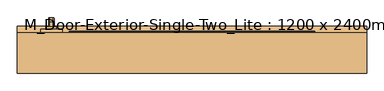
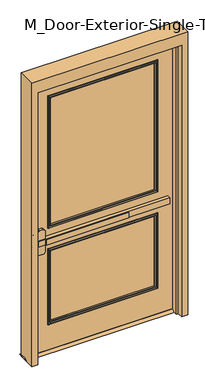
"""IFC4 building model written with IfcOpenShell, lengths in millimetres: door geometry, M_Door-Exterior-Single-Two_Lite : 1200 x 2400mm."""

from ifc_helpers import new_model, si_unit, point, frame, frame_2d, origin, place, context, project, spatial, polyline, circle_curve, ellipse_curve, trimmed, segment, composite_curve, outline, extrude, faceted_brep, source, transform, mapped, element, save
from ifc_brep_helpers import plane_surface, cylinder_surface, revolved_surface, advanced_brep


def m_door_exterior_single_two_lite_1200_x_2400mm_30e12bfc(model_context):
    return source(origin(), model_context, "Body", "SolidModel", [
        extrude(outline(polyline([(111.35, 15.0), (156.35, 15.0), (181.75, 0.0), (85.95, 0.0), (111.35, 15.0)])), frame((-650.0, 0.0, 0.0), z_axis=(1.0, 0.0, 0.0), x_axis=(0.0, 1.0, 0.0)), (0.0, 0.0, 1.0), 1300.0),
        extrude(outline(polyline([(198.95, 73.25), (-492.05, 73.25), (-492.05, 79.6), (198.95, 79.6), (198.95, 73.25)])), frame((0.0, 0.0, 974.6), z_axis=(0.0, 0.0, 1.0), x_axis=(1.0, 0.0, 0.0)), (0.0, 0.0, 1.0), 50.8),
        advanced_brep(
        [(-555.55, 79.6, 1025.4), (-555.55, 79.6, 974.6), (-492.05, 79.6, 974.6), (544.45, 79.6, 974.6), (544.45, 79.6, 1025.4), (-492.05, 79.6, 1025.4), (544.45, 111.35, 1025.4), (544.45, 111.35, 974.6), (-492.05, 111.35, 974.6), (-492.05, 111.35, 911.1), (-511.1, 111.35, 892.05), (-536.5, 111.35, 892.05), (-555.55, 111.35, 911.1), (-555.55, 111.35, 1088.9), (-536.5, 111.35, 1107.95), (-511.1, 111.35, 1107.95), (-492.05, 111.35, 1088.9), (-492.05, 111.35, 1025.4), (-492.05, 82.7752467, 1025.4), (-555.55, 82.7752467, 1025.4), (-555.55, 87.7854269, 1088.9), (-555.55, 87.7854269, 911.1), (-555.55, 82.7752467, 974.6), (-492.05, 82.7752467, 974.6), (-492.05, 87.7854269, 911.1), (-492.05, 87.7854269, 1088.9), (-536.5, 89.288481, 1107.95), (-511.1, 89.288481, 1107.95), (-511.1, 89.288481, 892.05), (-536.5, 89.288481, 892.05)],
        [
            (0, 1),
            (1, 2),
            (2, 3),
            (3, 4),
            (4, 5),
            (5, 0),
            (6, 7),
            (7, 8),
            (8, 9),
            (9, 10, circle_curve(frame((-511.1, 111.35, 911.1), z_axis=(0.0, 1.0, 0.0), x_axis=(1.0, 0.0, 0.0)), 19.05)),
            (10, 11),
            (11, 12, circle_curve(frame((-536.5, 111.35, 911.1), z_axis=(0.0, 1.0, 0.0), x_axis=(1.0, 0.0, 0.0)), 19.05)),
            (12, 13),
            (13, 14, circle_curve(frame((-536.5, 111.35, 1088.9), z_axis=(0.0, 1.0, 0.0), x_axis=(1.0, 0.0, 0.0)), 19.05)),
            (14, 15),
            (15, 16, circle_curve(frame((-511.1, 111.35, 1088.9), z_axis=(0.0, 1.0, 0.0), x_axis=(1.0, 0.0, 0.0)), 19.05)),
            (16, 17),
            (17, 6),
            (4, 6),
            (17, 18),
            (18, 19),
            (19, 0),
            (19, 20),
            (20, 13),
            (12, 21),
            (21, 22),
            (22, 1),
            (7, 3),
            (22, 23),
            (23, 8),
            (23, 24),
            (24, 9),
            (16, 25),
            (25, 18),
            (14, 26),
            (26, 27),
            (27, 15),
            (10, 28),
            (28, 29),
            (29, 11),
            (24, 28, ellipse_curve(frame((-511.1, 87.7854269, 911.1), z_axis=(0.0, 0.9969018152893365, 0.07865602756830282), x_axis=(0.0, -0.07865602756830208, 0.9969018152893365)), 19.1092038, 19.05)),
            (27, 25, ellipse_curve(frame((-511.1, 87.7854269, 1088.9), z_axis=(0.0, 0.9969018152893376, -0.07865602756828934), x_axis=(0.0, -0.078656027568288, -0.9969018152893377)), 19.1092038, 19.05)),
            (20, 26, ellipse_curve(frame((-536.5, 87.7854269, 1088.9), z_axis=(0.0, 0.9969018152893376, -0.07865602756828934), x_axis=(0.0, -0.078656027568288, -0.9969018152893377)), 19.1092038, 19.05)),
            (29, 21, ellipse_curve(frame((-536.5, 87.7854269, 911.1), z_axis=(0.0, 0.9969018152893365, 0.07865602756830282), x_axis=(0.0, -0.07865602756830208, 0.9969018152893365)), 19.1092038, 19.05)),
        ],
        [
            plane_surface(frame((-555.55, 79.6, 1025.4), z_axis=(0.0, -1.0, 0.0), x_axis=(-1.0, 0.0, 0.0))),
            plane_surface(frame((-555.55, 111.35, 1025.4), z_axis=(0.0, 1.0, 0.0), x_axis=(1.0, 0.0, 0.0))),
            plane_surface(frame((544.45, 79.6, 1025.4), z_axis=(0.0, 0.0, 1.0), x_axis=(0.0, 1.0, 0.0))),
            plane_surface(frame((-555.55, 79.6, 1025.4), z_axis=(-1.0, 0.0, 0.0), x_axis=(0.0, 1.0, 0.0))),
            plane_surface(frame((-555.55, 79.6, 974.6), z_axis=(0.0, 0.0, -1.0), x_axis=(0.0, 1.0, 0.0))),
            plane_surface(frame((544.45, 79.6, 974.6), z_axis=(1.0, 0.0, 0.0), x_axis=(0.0, 1.0, 0.0))),
            plane_surface(frame((-492.05, 82.7752467, 911.1), z_axis=(1.0, 0.0, 0.0), x_axis=(0.0, 1.0, 0.0))),
            plane_surface(frame((-511.1, 82.7752467, 1107.95), z_axis=(0.0, 0.0, 1.0), x_axis=(0.0, 1.0, 0.0))),
            plane_surface(frame((-536.5, 82.7752467, 892.05), z_axis=(0.0, 0.0, -1.0), x_axis=(0.0, 1.0, 0.0))),
            cylinder_surface(frame((-511.1, 111.35, 911.1), z_axis=(0.0, -1.0, 0.0), x_axis=(1.0, 0.0, 0.0)), 19.05),
            cylinder_surface(frame((-511.1, 111.35, 1088.9), z_axis=(0.0, -1.0, 0.0), x_axis=(1.0, 0.0, 0.0)), 19.05),
            cylinder_surface(frame((-536.5, 111.35, 1088.9), z_axis=(0.0, -1.0, 0.0), x_axis=(1.0, 0.0, 0.0)), 19.05),
            cylinder_surface(frame((-536.5, 111.35, 911.1), z_axis=(0.0, -1.0, 0.0), x_axis=(1.0, 0.0, 0.0)), 19.05),
            plane_surface(frame((-492.05, 82.7752467, 1025.4), z_axis=(0.0, -0.9969018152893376, 0.07865602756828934), x_axis=(-1.0, 0.0, 0.0))),
            plane_surface(frame((-492.05, 89.288481, 892.05), z_axis=(0.0, -0.9969018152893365, -0.07865602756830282), x_axis=(-1.0, 0.0, 0.0))),
        ],
        [
            (0, [[1, 2, 3, 4, 5, 6]]),
            (1, [[7, 8, 9, 10, 11, 12, 13, 14, 15, 16, 17, 18]]),
            (2, [[19, -18, 20, 21, 22, -6, -5]]),
            (3, [[-1, -22, 23, 24, -13, 25, 26, 27]]),
            (4, [[28, -3, -2, -27, 29, 30, -8]]),
            (5, [[-4, -28, -7, -19]]),
            (6, [[-9, -30, 31, 32]]),
            (6, [[-17, 33, 34, -20]]),
            (7, [[-15, 35, 36, 37]]),
            (8, [[-11, 38, 39, 40]]),
            (9, [[-10, -32, 41, -38]]),
            (10, [[-16, -37, 42, -33]]),
            (11, [[-14, -24, 43, -35]]),
            (12, [[-12, -40, 44, -25]]),
            (13, [[-21, -34, -42, -36, -43, -23]]),
            (14, [[-26, -44, -39, -41, -31, -29]]),
        ],
    ),
        advanced_brep(
        [(-533.8, 171.35, 1001.190625), (-533.8, 171.35, 998.809375), (-530.228125, 171.35, 995.2375), (-517.3715406, 171.35, 995.2375), (-513.8, 171.35, 998.8090406), (-513.8, 171.35, 1001.190625), (-517.371875, 171.35, 1004.7625), (-530.228125, 171.35, 1004.7625), (-533.8, 171.35, 874.609375), (-530.228125, 171.35, 871.0375), (-517.371875, 171.35, 871.0375), (-513.8, 171.35, 874.609375), (-513.8, 171.35, 876.9909594), (-517.3715406, 171.35, 880.5625), (-530.228125, 171.35, 880.5625), (-533.8, 171.35, 876.990625), (-533.8, 196.75, 1001.190625), (-533.8, 210.640625, 987.3), (-533.8, 210.640625, 888.5), (-533.8, 196.75, 874.609375), (-533.8, 196.75, 876.990625), (-533.8, 208.259375, 888.5), (-533.8, 208.259375, 987.3), (-533.8, 196.75, 998.809375), (-530.228125, 196.75, 995.2375), (-517.3715406, 196.75, 995.2375), (-513.8, 196.75, 998.8090406), (-513.8, 208.2590406, 987.3), (-513.8, 208.2590406, 888.5), (-513.8, 196.75, 876.9909594), (-513.8, 196.75, 874.609375), (-513.8, 210.640625, 888.5), (-513.8, 210.640625, 987.3), (-513.8, 196.75, 1001.190625), (-517.371875, 196.75, 1004.7625), (-530.228125, 196.75, 1004.7625), (-530.228125, 204.6875, 987.3), (-517.3715406, 204.6875, 987.3), (-517.371875, 214.2125, 987.3), (-530.228125, 214.2125, 987.3), (-530.228125, 204.6875, 888.5), (-517.3715406, 204.6875, 888.5), (-517.371875, 214.2125, 888.5), (-530.228125, 214.2125, 888.5), (-530.228125, 196.75, 880.5625), (-517.3715406, 196.75, 880.5625), (-517.371875, 196.75, 871.0375), (-530.228125, 196.75, 871.0375)],
        [
            (0, 1),
            (1, 2, circle_curve(frame((-530.228125, 171.35, 998.809375), z_axis=(0.0, -1.0, 0.0), x_axis=(0.0, 0.0, 1.0)), 3.571875)),
            (2, 3),
            (3, 4, circle_curve(frame((-517.3715406, 171.35, 998.8090406), z_axis=(0.0, -1.0, 0.0), x_axis=(0.0, 0.0, 1.0)), 3.5715406)),
            (4, 5),
            (5, 6, circle_curve(frame((-517.371875, 171.35, 1001.190625), z_axis=(0.0, -1.0, 0.0), x_axis=(0.0, 0.0, 1.0)), 3.571875)),
            (6, 7),
            (7, 0, circle_curve(frame((-530.228125, 171.35, 1001.190625), z_axis=(0.0, -1.0, 0.0), x_axis=(0.0, 0.0, 1.0)), 3.571875)),
            (8, 9, circle_curve(frame((-530.228125, 171.35, 874.609375), z_axis=(0.0, -1.0, 0.0), x_axis=(0.0, 0.0, -1.0)), 3.571875)),
            (9, 10),
            (10, 11, circle_curve(frame((-517.371875, 171.35, 874.609375), z_axis=(0.0, -1.0, 0.0), x_axis=(0.0, 0.0, -1.0)), 3.571875)),
            (11, 12),
            (12, 13, circle_curve(frame((-517.3715406, 171.35, 876.9909594), z_axis=(0.0, -1.0, 0.0), x_axis=(0.0, 0.0, -1.0)), 3.5715406)),
            (13, 14),
            (14, 15, circle_curve(frame((-530.228125, 171.35, 876.990625), z_axis=(0.0, -1.0, 0.0), x_axis=(0.0, 0.0, -1.0)), 3.571875)),
            (15, 8),
            (0, 16),
            (16, 17, circle_curve(frame((-533.8, 196.75, 987.3), z_axis=(-1.0, 0.0, 0.0), x_axis=(0.0, 0.0, 1.0)), 13.890625)),
            (17, 18),
            (18, 19, circle_curve(frame((-533.8, 196.75, 888.5), z_axis=(-1.0, 0.0, 0.0), x_axis=(0.0, 1.0, 0.0)), 13.890625)),
            (19, 8),
            (15, 20),
            (20, 21, circle_curve(frame((-533.8, 196.75, 888.5), z_axis=(1.0, 0.0, 0.0), x_axis=(0.0, 1.0, 0.0)), 11.509375)),
            (21, 22),
            (22, 23, circle_curve(frame((-533.8, 196.75, 987.3), z_axis=(1.0, 0.0, 0.0), x_axis=(0.0, 0.0, 1.0)), 11.509375)),
            (23, 1),
            (23, 24, circle_curve(frame((-530.228125, 196.75, 998.809375), z_axis=(0.0, -1.0, 0.0), x_axis=(0.0, 0.0, 1.0)), 3.571875)),
            (24, 2),
            (24, 25),
            (25, 3),
            (25, 26, circle_curve(frame((-517.3715406, 196.75, 998.8090406), z_axis=(0.0, -1.0, 0.0), x_axis=(0.0, 0.0, 1.0)), 3.5715406)),
            (26, 4),
            (26, 27, circle_curve(frame((-513.8, 196.75, 987.3), z_axis=(-1.0, 0.0, 0.0), x_axis=(0.0, 0.0, 1.0)), 11.5090406)),
            (27, 28),
            (28, 29, circle_curve(frame((-513.8, 196.75, 888.5), z_axis=(-1.0, 0.0, 0.0), x_axis=(0.0, 1.0, 0.0)), 11.5090406)),
            (29, 12),
            (11, 30),
            (30, 31, circle_curve(frame((-513.8, 196.75, 888.5), z_axis=(1.0, 0.0, 0.0), x_axis=(0.0, 1.0, 0.0)), 13.890625)),
            (31, 32),
            (32, 33, circle_curve(frame((-513.8, 196.75, 987.3), z_axis=(1.0, 0.0, 0.0), x_axis=(0.0, 0.0, 1.0)), 13.890625)),
            (33, 5),
            (33, 34, circle_curve(frame((-517.371875, 196.75, 1001.190625), z_axis=(0.0, -1.0, 0.0), x_axis=(0.0, 0.0, 1.0)), 3.571875)),
            (34, 6),
            (34, 35),
            (35, 7),
            (35, 16, circle_curve(frame((-530.228125, 196.75, 1001.190625), z_axis=(0.0, -1.0, 0.0), x_axis=(0.0, 0.0, 1.0)), 3.571875)),
            (36, 24, circle_curve(frame((-530.228125, 196.75, 987.3), z_axis=(1.0, 0.0, 0.0), x_axis=(0.0, 0.0, 1.0)), 7.9375)),
            (22, 36, circle_curve(frame((-530.228125, 208.259375, 987.3), z_axis=(0.0, 0.0, 1.0), x_axis=(0.0, 1.0, 0.0)), 3.571875)),
            (37, 25, circle_curve(frame((-517.3715406, 196.75, 987.3), z_axis=(1.0, 0.0, 0.0), x_axis=(0.0, 0.0, 1.0)), 7.9375)),
            (36, 37),
            (37, 27, circle_curve(frame((-517.3715406, 208.2590406, 987.3), z_axis=(0.0, 0.0, 1.0), x_axis=(0.0, 1.0, 0.0)), 3.5715406)),
            (38, 34, circle_curve(frame((-517.371875, 196.75, 987.3), z_axis=(1.0, 0.0, 0.0), x_axis=(0.0, 0.0, 1.0)), 17.4625)),
            (32, 38, circle_curve(frame((-517.371875, 210.640625, 987.3), z_axis=(0.0, 0.0, 1.0), x_axis=(0.0, 1.0, 0.0)), 3.571875)),
            (39, 35, circle_curve(frame((-530.228125, 196.75, 987.3), z_axis=(1.0, 0.0, 0.0), x_axis=(0.0, 0.0, 1.0)), 17.4625)),
            (38, 39),
            (39, 17, circle_curve(frame((-530.228125, 210.640625, 987.3), z_axis=(0.0, 0.0, 1.0), x_axis=(0.0, 1.0, 0.0)), 3.571875)),
            (21, 40, circle_curve(frame((-530.228125, 208.259375, 888.5), z_axis=(0.0, 0.0, 1.0), x_axis=(0.0, 1.0, 0.0)), 3.571875)),
            (40, 36),
            (40, 41),
            (41, 37),
            (41, 28, circle_curve(frame((-517.3715406, 208.2590406, 888.5), z_axis=(0.0, 0.0, 1.0), x_axis=(0.0, 1.0, 0.0)), 3.5715406)),
            (31, 42, circle_curve(frame((-517.371875, 210.640625, 888.5), z_axis=(0.0, 0.0, 1.0), x_axis=(0.0, 1.0, 0.0)), 3.571875)),
            (42, 38),
            (42, 43),
            (43, 39),
            (43, 18, circle_curve(frame((-530.228125, 210.640625, 888.5), z_axis=(0.0, 0.0, 1.0), x_axis=(0.0, 1.0, 0.0)), 3.571875)),
            (44, 40, circle_curve(frame((-530.228125, 196.75, 888.5), z_axis=(1.0, 0.0, 0.0), x_axis=(0.0, 1.0, 0.0)), 7.9375)),
            (20, 44, circle_curve(frame((-530.228125, 196.75, 876.990625), z_axis=(0.0, 1.0, 0.0), x_axis=(0.0, 0.0, -1.0)), 3.571875)),
            (45, 41, circle_curve(frame((-517.3715406, 196.75, 888.5), z_axis=(1.0, 0.0, 0.0), x_axis=(0.0, 1.0, 0.0)), 7.9375)),
            (44, 45),
            (45, 29, circle_curve(frame((-517.3715406, 196.75, 876.9909594), z_axis=(0.0, 1.0, 0.0), x_axis=(0.0, 0.0, -1.0)), 3.5715406)),
            (46, 42, circle_curve(frame((-517.371875, 196.75, 888.5), z_axis=(1.0, 0.0, 0.0), x_axis=(0.0, 1.0, 0.0)), 17.4625)),
            (30, 46, circle_curve(frame((-517.371875, 196.75, 874.609375), z_axis=(0.0, 1.0, 0.0), x_axis=(0.0, 0.0, -1.0)), 3.571875)),
            (47, 43, circle_curve(frame((-530.228125, 196.75, 888.5), z_axis=(1.0, 0.0, 0.0), x_axis=(0.0, 1.0, 0.0)), 17.4625)),
            (46, 47),
            (47, 19, circle_curve(frame((-530.228125, 196.75, 874.609375), z_axis=(0.0, 1.0, 0.0), x_axis=(0.0, 0.0, -1.0)), 3.571875)),
            (14, 44),
            (13, 45),
            (10, 46),
            (9, 47),
        ],
        [
            plane_surface(frame((-523.8, 171.35, 1000.0), z_axis=(0.0, -1.0, 0.0), x_axis=(1.0, 0.0, 0.0))),
            plane_surface(frame((-523.8, 171.35, 875.8), z_axis=(0.0, -1.0, 0.0), x_axis=(1.0, 0.0, 0.0))),
            plane_surface(frame((-533.8, 171.35, 1001.190625), z_axis=(-1.0, 0.0, 0.0), x_axis=(0.0, 1.0, 0.0))),
            cylinder_surface(frame((-530.228125, 171.35, 998.809375), z_axis=(0.0, -1.0, 0.0), x_axis=(0.0, 0.0, 1.0)), 3.571875),
            plane_surface(frame((-530.228125, 171.35, 995.2375), z_axis=(0.0, 0.0, -1.0), x_axis=(0.0, 1.0, 0.0))),
            cylinder_surface(frame((-517.3715406, 171.35, 998.8090406), z_axis=(0.0, -1.0, 0.0), x_axis=(0.0, 0.0, 1.0)), 3.5715406),
            plane_surface(frame((-513.8, 171.35, 998.8090406), z_axis=(1.0, 0.0, 0.0), x_axis=(0.0, 1.0, 0.0))),
            cylinder_surface(frame((-517.371875, 171.35, 1001.190625), z_axis=(0.0, -1.0, 0.0), x_axis=(0.0, 0.0, 1.0)), 3.571875),
            plane_surface(frame((-517.371875, 171.35, 1004.7625), z_axis=(0.0, 0.0, 1.0), x_axis=(0.0, 1.0, 0.0))),
            cylinder_surface(frame((-530.228125, 171.35, 1001.190625), z_axis=(0.0, -1.0, 0.0), x_axis=(0.0, 0.0, 1.0)), 3.571875),
            revolved_surface(trimmed(ellipse_curve(frame((-530.228125, 196.75, 998.809375), z_axis=(0.0, -1.0, 0.0), x_axis=(0.0, 0.0, 1.0)), 3.571875, 3.571875), [point((-533.8, 196.75, 998.809375))], [point((-530.228125, 196.75, 995.2375))], True, "CARTESIAN"), (-523.8, 196.75, 987.3), (-1.0, 0.0, 0.0)),
            revolved_surface(polyline([(-530.228125, 196.75, 995.2375), (-517.3715406, 196.75, 995.2375)]), (-523.8, 196.75, 987.3), (-1.0, 0.0, 0.0)),
            revolved_surface(trimmed(ellipse_curve(frame((-517.3715406, 196.75, 998.8090406), z_axis=(0.0, -1.0, 0.0), x_axis=(0.0, 0.0, 1.0)), 3.5715406, 3.5715406), [point((-517.3715406, 196.75, 995.2375))], [point((-513.8, 196.75, 998.8090406))], True, "CARTESIAN"), (-523.8, 196.75, 987.3), (-1.0, 0.0, 0.0)),
            revolved_surface(trimmed(ellipse_curve(frame((-517.371875, 196.75, 1001.190625), z_axis=(0.0, -1.0, 0.0), x_axis=(0.0, 0.0, 1.0)), 3.571875, 3.571875), [point((-513.8, 196.75, 1001.190625))], [point((-517.371875, 196.75, 1004.7625))], True, "CARTESIAN"), (-523.8, 196.75, 987.3), (-1.0, 0.0, 0.0)),
            cylinder_surface(frame((-523.8, 196.75, 987.3), z_axis=(-1.0, 0.0, 0.0), x_axis=(0.0, 0.0, 1.0)), 17.4625),
            revolved_surface(trimmed(ellipse_curve(frame((-530.228125, 196.75, 1001.190625), z_axis=(0.0, -1.0, 0.0), x_axis=(0.0, 0.0, 1.0)), 3.571875, 3.571875), [point((-530.228125, 196.75, 1004.7625))], [point((-533.8, 196.75, 1001.190625))], True, "CARTESIAN"), (-523.8, 196.75, 987.3), (-1.0, 0.0, 0.0)),
            cylinder_surface(frame((-530.228125, 208.259375, 987.3), z_axis=(0.0, 0.0, 1.0), x_axis=(0.0, 1.0, 0.0)), 3.571875),
            plane_surface(frame((-530.228125, 204.6875, 987.3), z_axis=(0.0, -1.0, 0.0), x_axis=(0.0, 0.0, -1.0))),
            cylinder_surface(frame((-517.3715406, 208.2590406, 987.3), z_axis=(0.0, 0.0, 1.0), x_axis=(0.0, 1.0, 0.0)), 3.5715406),
            cylinder_surface(frame((-517.371875, 210.640625, 987.3), z_axis=(0.0, 0.0, 1.0), x_axis=(0.0, 1.0, 0.0)), 3.571875),
            plane_surface(frame((-517.371875, 214.2125, 987.3), z_axis=(0.0, 1.0, 0.0), x_axis=(0.0, 0.0, -1.0))),
            cylinder_surface(frame((-530.228125, 210.640625, 987.3), z_axis=(0.0, 0.0, 1.0), x_axis=(0.0, 1.0, 0.0)), 3.571875),
            revolved_surface(trimmed(ellipse_curve(frame((-530.228125, 208.259375, 888.5), z_axis=(0.0, 0.0, 1.0), x_axis=(0.0, 1.0, 0.0)), 3.571875, 3.571875), [point((-533.8, 208.259375, 888.5))], [point((-530.228125, 204.6875, 888.5))], True, "CARTESIAN"), (-523.8, 196.75, 888.5), (-1.0, 0.0, 0.0)),
            revolved_surface(polyline([(-530.228125, 204.6875, 888.5), (-517.3715406, 204.6875, 888.5)]), (-523.8, 196.75, 888.5), (-1.0, 0.0, 0.0)),
            revolved_surface(trimmed(ellipse_curve(frame((-517.3715406, 208.2590406, 888.5), z_axis=(0.0, 0.0, 1.0), x_axis=(0.0, 1.0, 0.0)), 3.5715406, 3.5715406), [point((-517.3715406, 204.6875, 888.5))], [point((-513.8, 208.2590406, 888.5))], True, "CARTESIAN"), (-523.8, 196.75, 888.5), (-1.0, 0.0, 0.0)),
            revolved_surface(trimmed(ellipse_curve(frame((-517.371875, 210.640625, 888.5), z_axis=(0.0, 0.0, 1.0), x_axis=(0.0, 1.0, 0.0)), 3.571875, 3.571875), [point((-513.8, 210.640625, 888.5))], [point((-517.371875, 214.2125, 888.5))], True, "CARTESIAN"), (-523.8, 196.75, 888.5), (-1.0, 0.0, 0.0)),
            cylinder_surface(frame((-523.8, 196.75, 888.5), z_axis=(-1.0, 0.0, 0.0), x_axis=(0.0, 1.0, 0.0)), 17.4625),
            revolved_surface(trimmed(ellipse_curve(frame((-530.228125, 210.640625, 888.5), z_axis=(0.0, 0.0, 1.0), x_axis=(0.0, 1.0, 0.0)), 3.571875, 3.571875), [point((-530.228125, 214.2125, 888.5))], [point((-533.8, 210.640625, 888.5))], True, "CARTESIAN"), (-523.8, 196.75, 888.5), (-1.0, 0.0, 0.0)),
            cylinder_surface(frame((-530.228125, 196.75, 876.990625), z_axis=(0.0, 1.0, 0.0), x_axis=(0.0, 0.0, -1.0)), 3.571875),
            plane_surface(frame((-530.228125, 196.75, 880.5625), z_axis=(0.0, 0.0, 1.0), x_axis=(0.0, -1.0, 0.0))),
            cylinder_surface(frame((-517.3715406, 196.75, 876.9909594), z_axis=(0.0, 1.0, 0.0), x_axis=(0.0, 0.0, -1.0)), 3.5715406),
            cylinder_surface(frame((-517.371875, 196.75, 874.609375), z_axis=(0.0, 1.0, 0.0), x_axis=(0.0, 0.0, -1.0)), 3.571875),
            plane_surface(frame((-517.371875, 196.75, 871.0375), z_axis=(0.0, 0.0, -1.0), x_axis=(0.0, -1.0, 0.0))),
            cylinder_surface(frame((-530.228125, 196.75, 874.609375), z_axis=(0.0, 1.0, 0.0), x_axis=(0.0, 0.0, -1.0)), 3.571875),
        ],
        [
            (0, [[1, 2, 3, 4, 5, 6, 7, 8]]),
            (1, [[9, 10, 11, 12, 13, 14, 15, 16]]),
            (2, [[-1, 17, 18, 19, 20, 21, -16, 22, 23, 24, 25, 26]]),
            (3, [[-2, -26, 27, 28]]),
            (4, [[-3, -28, 29, 30]]),
            (5, [[-4, -30, 31, 32]]),
            (6, [[-5, -32, 33, 34, 35, 36, -12, 37, 38, 39, 40, 41]]),
            (7, [[-6, -41, 42, 43]]),
            (8, [[-7, -43, 44, 45]]),
            (9, [[-8, -45, 46, -17]]),
            (10, [[47, -27, -25, 48]]),
            (11, [[49, -29, -47, 50]]),
            (12, [[-33, -31, -49, 51]]),
            (13, [[52, -42, -40, 53]]),
            (14, [[54, -44, -52, 55]]),
            (15, [[-18, -46, -54, 56]]),
            (16, [[-48, -24, 57, 58]]),
            (17, [[-50, -58, 59, 60]]),
            (18, [[-51, -60, 61, -34]]),
            (19, [[-53, -39, 62, 63]]),
            (20, [[-55, -63, 64, 65]]),
            (21, [[-56, -65, 66, -19]]),
            (22, [[67, -57, -23, 68]]),
            (23, [[69, -59, -67, 70]]),
            (24, [[-35, -61, -69, 71]]),
            (25, [[72, -62, -38, 73]]),
            (26, [[74, -64, -72, 75]]),
            (27, [[-20, -66, -74, 76]]),
            (28, [[-68, -22, -15, 77]]),
            (29, [[-70, -77, -14, 78]]),
            (30, [[-71, -78, -13, -36]]),
            (31, [[-73, -37, -11, 79]]),
            (32, [[-75, -79, -10, 80]]),
            (33, [[-76, -80, -9, -21]]),
        ],
    ),
        extrude(outline(composite_curve([segment(trimmed(circle_curve(frame_2d((1098.8, -523.8)), 19.0), [point((1098.8, -542.8))], [point((1098.8, -504.8))], False, "CARTESIAN"), True, "CONTINUOUS"), segment(trimmed(circle_curve(frame_2d((1098.8, -523.8)), 19.0), [point((1098.8, -504.8))], [point((1098.8, -542.8))], False, "CARTESIAN"), True, "CONTINUOUS")], self_intersect=False)), frame((0.0, 171.35, 0.0), z_axis=(0.0, 1.0, 0.0), x_axis=(0.0, 0.0, 1.0)), (0.0, 0.0, 1.0), 8.73125),
        extrude(outline(composite_curve([segment(trimmed(circle_curve(frame_2d((1094.2338574, -523.8)), 90.1286291), [point((1175.0, -483.8))], [point((1175.0, -563.8))], False, "CARTESIAN"), True, "CONTINUOUS"), segment(polyline([(1175.0, -563.8), (825.0, -563.8)]), True, "CONTINUOUS"), segment(trimmed(circle_curve(frame_2d((905.7661426, -523.8)), 90.1286291), [point((825.0, -563.8))], [point((825.0, -483.8))], False, "CARTESIAN"), True, "CONTINUOUS"), segment(polyline([(825.0, -483.8), (1175.0, -483.8)]), True, "CONTINUOUS")], self_intersect=False)), frame((0.0, 156.35, 0.0), z_axis=(0.0, 1.0, 0.0), x_axis=(0.0, 0.0, 1.0)), (0.0, 0.0, 1.0), 15.0),
        faceted_brep([(600.0, 106.5875, 0.0), (600.0, 156.35, 0.0), (650.0, 156.35, 0.0), (650.0, 6.35, 0.0), (600.0, 6.35, 0.0), (600.0, 55.5625, 0.0), (584.125, 55.5625, 0.0), (584.125, 106.5875, 0.0), (600.0, 106.5875, 2400.0), (600.0, 156.35, 2400.0), (-600.0, 156.35, 2400.0), (-600.0, 156.35, 0.0), (-650.0, 156.35, 0.0), (-650.0, 156.35, 2500.0), (650.0, 156.35, 2500.0), (650.0, 6.35, 2500.0), (-650.0, 6.35, 2500.0), (-650.0, 6.35, 0.0), (-600.0, 6.35, 0.0), (-600.0, 6.35, 2400.0), (600.0, 6.35, 2400.0), (600.0, 55.5625, 2400.0), (-600.0, 55.5625, 2400.0), (-600.0, 55.5625, 0.0), (-584.125, 55.5625, 0.0), (-584.125, 55.5625, 2384.125), (584.125, 55.5625, 2384.125), (584.125, 106.5875, 2384.125), (-584.125, 106.5875, 2384.125), (-584.125, 106.5875, 0.0), (-600.0, 106.5875, 0.0), (-600.0, 106.5875, 2400.0)], [[[0, 1, 2, 3, 4, 5, 6, 7]], [[1, 0, 8, 9]], [[2, 1, 9, 10, 11, 12, 13, 14]], [[3, 2, 14, 15]], [[4, 3, 15, 16, 17, 18, 19, 20]], [[5, 4, 20, 21]], [[6, 5, 21, 22, 23, 24, 25, 26]], [[7, 6, 26, 27]], [[0, 7, 27, 28, 29, 30, 31, 8]], [[9, 8, 31, 10]], [[20, 19, 22, 21]], [[26, 25, 28, 27]], [[12, 11, 30, 29, 24, 23, 18, 17]], [[11, 10, 31, 30]], [[13, 12, 17, 16]], [[19, 18, 23, 22]], [[25, 24, 29, 28]], [[15, 14, 13, 16]]]),
        extrude(outline(polyline([(2400.0, -600.0), (15.0, -600.0), (15.0, 600.0), (2400.0, 600.0), (2400.0, -600.0)]), holes=[polyline([(2250.0, -450.0), (2250.0, 450.0), (1100.0, 450.0), (1100.0, -450.0), (2250.0, -450.0)]), polyline([(900.0, -450.0), (900.0, 450.0), (250.0, 450.0), (250.0, -450.0), (900.0, -450.0)])]), frame((0.0, 111.35, 0.0), z_axis=(0.0, 1.0, 0.0), x_axis=(0.0, 0.0, 1.0)), (0.0, 0.0, 1.0), 45.0),
        extrude(outline(polyline([(450.0, 123.85), (-450.0, 123.85), (-450.0, 143.85), (450.0, 143.85), (450.0, 123.85)])), frame((0.0, 0.0, 1100.0), z_axis=(0.0, 0.0, 1.0), x_axis=(1.0, 0.0, 0.0)), (0.0, 0.0, 1.0), 1150.0),
        extrude(outline(polyline([(450.0, 123.85), (-450.0, 123.85), (-450.0, 143.85), (450.0, 143.85), (450.0, 123.85)])), frame((0.0, 0.0, 250.0), z_axis=(0.0, 0.0, 1.0), x_axis=(1.0, 0.0, 0.0)), (0.0, 0.0, 1.0), 650.0),
        advanced_brep(
        [(450.0, 123.85, 900.0), (450.0, 111.35, 900.0), (450.0, 111.35, 250.0), (450.0, 123.85, 250.0), (438.0, 110.35, 888.0), (438.0, 123.85, 888.0), (438.0, 123.85, 262.0), (438.0, 110.35, 262.0), (443.0, 105.35, 893.0), (443.0, 105.35, 257.0), (458.0, 107.35, 908.0), (456.0, 105.35, 906.0), (456.0, 105.35, 244.0), (458.0, 107.35, 242.0), (458.0, 111.35, 908.0), (458.0, 111.35, 242.0), (-450.0, 111.35, 250.0), (-450.0, 123.85, 250.0), (-438.0, 123.85, 262.0), (-438.0, 110.35, 262.0), (-443.0, 105.35, 257.0), (-456.0, 105.35, 244.0), (-458.0, 107.35, 242.0), (-458.0, 111.35, 242.0), (-450.0, 111.35, 900.0), (-450.0, 123.85, 900.0), (-438.0, 123.85, 888.0), (-438.0, 110.35, 888.0), (-443.0, 105.35, 893.0), (-456.0, 105.35, 906.0), (-458.0, 107.35, 908.0), (-458.0, 111.35, 908.0)],
        [
            (0, 1),
            (1, 2),
            (2, 3),
            (3, 0),
            (4, 5),
            (5, 6),
            (6, 7),
            (7, 4),
            (8, 4, ellipse_curve(frame((443.0, 110.35, 893.0), z_axis=(0.7071067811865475, 0.0, -0.7071067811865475), x_axis=(0.7071067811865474, 0.0, 0.7071067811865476)), 7.0710678, 5.0)),
            (7, 9, ellipse_curve(frame((443.0, 110.35, 257.0), z_axis=(0.7071067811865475, 0.0, 0.7071067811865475), x_axis=(-0.7071067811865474, 0.0, 0.7071067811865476)), 7.0710678, 5.0)),
            (9, 8),
            (10, 11, ellipse_curve(frame((456.0, 107.35, 906.0), z_axis=(0.7071067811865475, 0.0, -0.7071067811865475), x_axis=(0.7071067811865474, 0.0, 0.7071067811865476)), 2.8284271, 2.0)),
            (11, 12),
            (12, 13, ellipse_curve(frame((456.0, 107.35, 244.0), z_axis=(0.7071067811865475, 0.0, 0.7071067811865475), x_axis=(-0.7071067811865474, 0.0, 0.7071067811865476)), 2.8284271, 2.0)),
            (13, 10),
            (14, 10),
            (13, 15),
            (15, 14),
            (2, 16),
            (16, 17),
            (17, 3),
            (6, 18),
            (18, 19),
            (19, 7),
            (19, 20, ellipse_curve(frame((-443.0, 110.35, 257.0), z_axis=(0.7071067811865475, 0.0, -0.7071067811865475), x_axis=(0.7071067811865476, 0.0, 0.7071067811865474)), 7.0710678, 5.0)),
            (20, 9),
            (12, 21),
            (21, 22, ellipse_curve(frame((-456.0, 107.35, 244.0), z_axis=(0.7071067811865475, 0.0, -0.7071067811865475), x_axis=(0.7071067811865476, 0.0, 0.7071067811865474)), 2.8284271, 2.0)),
            (22, 13),
            (22, 23),
            (23, 15),
            (16, 24),
            (24, 25),
            (25, 17),
            (18, 26),
            (26, 27),
            (27, 19),
            (27, 28, ellipse_curve(frame((-443.0, 110.35, 893.0), z_axis=(-0.7071067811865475, 0.0, -0.7071067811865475), x_axis=(0.7071067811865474, 0.0, -0.7071067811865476)), 7.0710678, 5.0)),
            (28, 20),
            (21, 29),
            (29, 30, ellipse_curve(frame((-456.0, 107.35, 906.0), z_axis=(-0.7071067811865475, 0.0, -0.7071067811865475), x_axis=(0.7071067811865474, 0.0, -0.7071067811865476)), 2.8284271, 2.0)),
            (30, 22),
            (30, 31),
            (31, 23),
            (31, 14),
            (1, 24),
            (0, 25),
            (5, 26),
            (4, 27),
            (8, 28),
            (11, 29),
            (10, 30),
        ],
        [
            plane_surface(frame((450.0, 111.35, 900.0), z_axis=(1.0, 0.0, 0.0), x_axis=(0.0, 0.0, -1.0))),
            plane_surface(frame((438.0, 123.85, 888.0), z_axis=(-1.0, 0.0, 0.0), x_axis=(0.0, 0.0, -1.0))),
            cylinder_surface(frame((443.0, 110.35, 900.0), z_axis=(0.0, 0.0, 1.0), x_axis=(1.0, 0.0, 0.0)), 5.0),
            cylinder_surface(frame((456.0, 107.35, 900.0), z_axis=(0.0, 0.0, 1.0), x_axis=(1.0, 0.0, 0.0)), 2.0),
            plane_surface(frame((458.0, 107.35, 908.0), z_axis=(1.0, 0.0, 0.0), x_axis=(0.0, 0.0, -1.0))),
            plane_surface(frame((450.0, 111.35, 250.0), z_axis=(0.0, 0.0, -1.0), x_axis=(-1.0, 0.0, 0.0))),
            plane_surface(frame((438.0, 123.85, 262.0), z_axis=(0.0, 0.0, 1.0), x_axis=(-1.0, 0.0, 0.0))),
            cylinder_surface(frame((450.0, 110.35, 257.0), z_axis=(1.0, 0.0, 0.0), x_axis=(0.0, 0.0, -1.0)), 5.0),
            cylinder_surface(frame((450.0, 107.35, 244.0), z_axis=(1.0, 0.0, 0.0), x_axis=(0.0, 0.0, -1.0)), 2.0),
            plane_surface(frame((458.0, 107.35, 242.0), z_axis=(0.0, 0.0, -1.0), x_axis=(-1.0, 0.0, 0.0))),
            plane_surface(frame((-450.0, 111.35, 250.0), z_axis=(-1.0, 0.0, 0.0), x_axis=(0.0, 0.0, 1.0))),
            plane_surface(frame((-438.0, 123.85, 262.0), z_axis=(1.0, 0.0, 0.0), x_axis=(0.0, 0.0, 1.0))),
            cylinder_surface(frame((-443.0, 110.35, 250.0), z_axis=(0.0, 0.0, -1.0), x_axis=(-1.0, 0.0, 0.0)), 5.0),
            cylinder_surface(frame((-456.0, 107.35, 250.0), z_axis=(0.0, 0.0, -1.0), x_axis=(-1.0, 0.0, 0.0)), 2.0),
            plane_surface(frame((-458.0, 107.35, 242.0), z_axis=(-1.0, 0.0, 0.0), x_axis=(0.0, 0.0, 1.0))),
            plane_surface(frame((-458.0, 111.35, 908.0), z_axis=(0.0, 1.0, 0.0), x_axis=(1.0, 0.0, 0.0))),
            plane_surface(frame((-450.0, 111.35, 900.0), z_axis=(0.0, 0.0, 1.0), x_axis=(1.0, 0.0, 0.0))),
            plane_surface(frame((-450.0, 123.85, 900.0), z_axis=(0.0, 1.0, 0.0), x_axis=(1.0, 0.0, 0.0))),
            plane_surface(frame((-438.0, 123.85, 888.0), z_axis=(0.0, 0.0, -1.0), x_axis=(1.0, 0.0, 0.0))),
            cylinder_surface(frame((-450.0, 110.35, 893.0), z_axis=(-1.0, 0.0, 0.0), x_axis=(0.0, 0.0, 1.0)), 5.0),
            plane_surface(frame((-443.0, 105.35, 893.0), z_axis=(0.0, -1.0, 0.0), x_axis=(1.0, 0.0, 0.0))),
            cylinder_surface(frame((-450.0, 107.35, 906.0), z_axis=(-1.0, 0.0, 0.0), x_axis=(0.0, 0.0, 1.0)), 2.0),
            plane_surface(frame((-458.0, 107.35, 908.0), z_axis=(0.0, 0.0, 1.0), x_axis=(1.0, 0.0, 0.0))),
        ],
        [
            (0, [[1, 2, 3, 4]]),
            (1, [[5, 6, 7, 8]]),
            (2, [[9, -8, 10, 11]]),
            (3, [[12, 13, 14, 15]]),
            (4, [[16, -15, 17, 18]]),
            (5, [[-3, 19, 20, 21]]),
            (6, [[-7, 22, 23, 24]]),
            (7, [[-10, -24, 25, 26]]),
            (8, [[-14, 27, 28, 29]]),
            (9, [[-17, -29, 30, 31]]),
            (10, [[-20, 32, 33, 34]]),
            (11, [[-23, 35, 36, 37]]),
            (12, [[-25, -37, 38, 39]]),
            (13, [[-28, 40, 41, 42]]),
            (14, [[-30, -42, 43, 44]]),
            (15, [[-31, -44, 45, -18], [46, -32, -19, -2]]),
            (16, [[-33, -46, -1, 47]]),
            (17, [[-21, -34, -47, -4], [48, -35, -22, -6]]),
            (18, [[-36, -48, -5, 49]]),
            (19, [[-38, -49, -9, 50]]),
            (20, [[51, -40, -27, -13], [-26, -39, -50, -11]]),
            (21, [[-41, -51, -12, 52]]),
            (22, [[-43, -52, -16, -45]]),
        ],
    ),
        advanced_brep(
        [(-450.0, 143.85, 900.0), (-450.0, 156.35, 900.0), (-450.0, 156.35, 250.0), (-450.0, 143.85, 250.0), (-438.0, 157.35, 888.0), (-438.0, 143.85, 888.0), (-438.0, 143.85, 262.0), (-438.0, 157.35, 262.0), (-443.0, 162.35, 893.0), (-443.0, 162.35, 257.0), (-458.0, 160.35, 908.0), (-456.0, 162.35, 906.0), (-456.0, 162.35, 244.0), (-458.0, 160.35, 242.0), (-458.0, 156.35, 908.0), (-458.0, 156.35, 242.0), (450.0, 156.35, 250.0), (450.0, 143.85, 250.0), (438.0, 143.85, 262.0), (438.0, 157.35, 262.0), (443.0, 162.35, 257.0), (456.0, 162.35, 244.0), (458.0, 160.35, 242.0), (458.0, 156.35, 242.0), (450.0, 156.35, 900.0), (450.0, 143.85, 900.0), (438.0, 143.85, 888.0), (438.0, 157.35, 888.0), (443.0, 162.35, 893.0), (456.0, 162.35, 906.0), (458.0, 160.35, 908.0), (458.0, 156.35, 908.0)],
        [
            (0, 1),
            (1, 2),
            (2, 3),
            (3, 0),
            (4, 5),
            (5, 6),
            (6, 7),
            (7, 4),
            (8, 4, ellipse_curve(frame((-443.0, 157.35, 893.0), z_axis=(-0.7071067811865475, 0.0, -0.7071067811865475), x_axis=(-0.7071067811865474, 0.0, 0.7071067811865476)), 7.0710678, 5.0)),
            (7, 9, ellipse_curve(frame((-443.0, 157.35, 257.0), z_axis=(-0.7071067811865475, 0.0, 0.7071067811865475), x_axis=(0.7071067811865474, 0.0, 0.7071067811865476)), 7.0710678, 5.0)),
            (9, 8),
            (10, 11, ellipse_curve(frame((-456.0, 160.35, 906.0), z_axis=(-0.7071067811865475, 0.0, -0.7071067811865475), x_axis=(-0.7071067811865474, 0.0, 0.7071067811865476)), 2.8284271, 2.0)),
            (11, 12),
            (12, 13, ellipse_curve(frame((-456.0, 160.35, 244.0), z_axis=(-0.7071067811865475, 0.0, 0.7071067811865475), x_axis=(0.7071067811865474, 0.0, 0.7071067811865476)), 2.8284271, 2.0)),
            (13, 10),
            (14, 10),
            (13, 15),
            (15, 14),
            (2, 16),
            (16, 17),
            (17, 3),
            (6, 18),
            (18, 19),
            (19, 7),
            (19, 20, ellipse_curve(frame((443.0, 157.35, 257.0), z_axis=(-0.7071067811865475, 0.0, -0.7071067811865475), x_axis=(-0.7071067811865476, 0.0, 0.7071067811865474)), 7.0710678, 5.0)),
            (20, 9),
            (12, 21),
            (21, 22, ellipse_curve(frame((456.0, 160.35, 244.0), z_axis=(-0.7071067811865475, 0.0, -0.7071067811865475), x_axis=(-0.7071067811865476, 0.0, 0.7071067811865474)), 2.8284271, 2.0)),
            (22, 13),
            (22, 23),
            (23, 15),
            (16, 24),
            (24, 25),
            (25, 17),
            (18, 26),
            (26, 27),
            (27, 19),
            (27, 28, ellipse_curve(frame((443.0, 157.35, 893.0), z_axis=(0.7071067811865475, 0.0, -0.7071067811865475), x_axis=(-0.7071067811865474, 0.0, -0.7071067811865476)), 7.0710678, 5.0)),
            (28, 20),
            (21, 29),
            (29, 30, ellipse_curve(frame((456.0, 160.35, 906.0), z_axis=(0.7071067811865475, 0.0, -0.7071067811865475), x_axis=(-0.7071067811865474, 0.0, -0.7071067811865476)), 2.8284271, 2.0)),
            (30, 22),
            (30, 31),
            (31, 23),
            (31, 14),
            (1, 24),
            (0, 25),
            (5, 26),
            (4, 27),
            (8, 28),
            (11, 29),
            (10, 30),
        ],
        [
            plane_surface(frame((-450.0, 156.35, 900.0), z_axis=(-1.0, 0.0, 0.0), x_axis=(0.0, 0.0, -1.0))),
            plane_surface(frame((-438.0, 143.85, 888.0), z_axis=(1.0, 0.0, 0.0), x_axis=(0.0, 0.0, -1.0))),
            cylinder_surface(frame((-443.0, 157.35, 900.0), z_axis=(0.0, 0.0, 1.0), x_axis=(-1.0, 0.0, 0.0)), 5.0),
            cylinder_surface(frame((-456.0, 160.35, 900.0), z_axis=(0.0, 0.0, 1.0), x_axis=(-1.0, 0.0, 0.0)), 2.0),
            plane_surface(frame((-458.0, 160.35, 908.0), z_axis=(-1.0, 0.0, 0.0), x_axis=(0.0, 0.0, -1.0))),
            plane_surface(frame((-450.0, 156.35, 250.0), z_axis=(0.0, 0.0, -1.0), x_axis=(1.0, 0.0, 0.0))),
            plane_surface(frame((-438.0, 143.85, 262.0), z_axis=(0.0, 0.0, 1.0), x_axis=(1.0, 0.0, 0.0))),
            cylinder_surface(frame((-450.0, 157.35, 257.0), z_axis=(-1.0, 0.0, 0.0), x_axis=(0.0, 0.0, -1.0)), 5.0),
            cylinder_surface(frame((-450.0, 160.35, 244.0), z_axis=(-1.0, 0.0, 0.0), x_axis=(0.0, 0.0, -1.0)), 2.0),
            plane_surface(frame((-458.0, 160.35, 242.0), z_axis=(0.0, 0.0, -1.0), x_axis=(1.0, 0.0, 0.0))),
            plane_surface(frame((450.0, 156.35, 250.0), z_axis=(1.0, 0.0, 0.0), x_axis=(0.0, 0.0, 1.0))),
            plane_surface(frame((438.0, 143.85, 262.0), z_axis=(-1.0, 0.0, 0.0), x_axis=(0.0, 0.0, 1.0))),
            cylinder_surface(frame((443.0, 157.35, 250.0), z_axis=(0.0, 0.0, -1.0), x_axis=(1.0, 0.0, 0.0)), 5.0),
            cylinder_surface(frame((456.0, 160.35, 250.0), z_axis=(0.0, 0.0, -1.0), x_axis=(1.0, 0.0, 0.0)), 2.0),
            plane_surface(frame((458.0, 160.35, 242.0), z_axis=(1.0, 0.0, 0.0), x_axis=(0.0, 0.0, 1.0))),
            plane_surface(frame((458.0, 156.35, 908.0), z_axis=(0.0, -1.0, 0.0), x_axis=(-1.0, 0.0, 0.0))),
            plane_surface(frame((450.0, 156.35, 900.0), z_axis=(0.0, 0.0, 1.0), x_axis=(-1.0, 0.0, 0.0))),
            plane_surface(frame((450.0, 143.85, 900.0), z_axis=(0.0, -1.0, 0.0), x_axis=(-1.0, 0.0, 0.0))),
            plane_surface(frame((438.0, 143.85, 888.0), z_axis=(0.0, 0.0, -1.0), x_axis=(-1.0, 0.0, 0.0))),
            cylinder_surface(frame((450.0, 157.35, 893.0), z_axis=(1.0, 0.0, 0.0), x_axis=(0.0, 0.0, 1.0)), 5.0),
            plane_surface(frame((443.0, 162.35, 893.0), z_axis=(0.0, 1.0, 0.0), x_axis=(-1.0, 0.0, 0.0))),
            cylinder_surface(frame((450.0, 160.35, 906.0), z_axis=(1.0, 0.0, 0.0), x_axis=(0.0, 0.0, 1.0)), 2.0),
            plane_surface(frame((458.0, 160.35, 908.0), z_axis=(0.0, 0.0, 1.0), x_axis=(-1.0, 0.0, 0.0))),
        ],
        [
            (0, [[1, 2, 3, 4]]),
            (1, [[5, 6, 7, 8]]),
            (2, [[9, -8, 10, 11]]),
            (3, [[12, 13, 14, 15]]),
            (4, [[16, -15, 17, 18]]),
            (5, [[-3, 19, 20, 21]]),
            (6, [[-7, 22, 23, 24]]),
            (7, [[-10, -24, 25, 26]]),
            (8, [[-14, 27, 28, 29]]),
            (9, [[-17, -29, 30, 31]]),
            (10, [[-20, 32, 33, 34]]),
            (11, [[-23, 35, 36, 37]]),
            (12, [[-25, -37, 38, 39]]),
            (13, [[-28, 40, 41, 42]]),
            (14, [[-30, -42, 43, 44]]),
            (15, [[-31, -44, 45, -18], [46, -32, -19, -2]]),
            (16, [[-33, -46, -1, 47]]),
            (17, [[-21, -34, -47, -4], [48, -35, -22, -6]]),
            (18, [[-36, -48, -5, 49]]),
            (19, [[-38, -49, -9, 50]]),
            (20, [[51, -40, -27, -13], [-26, -39, -50, -11]]),
            (21, [[-41, -51, -12, 52]]),
            (22, [[-43, -52, -16, -45]]),
        ],
    ),
        advanced_brep(
        [(-450.0, 123.85, 1100.0), (-450.0, 111.35, 1100.0), (-450.0, 111.35, 2250.0), (-450.0, 123.85, 2250.0), (-438.0, 110.35, 1112.0), (-438.0, 123.85, 1112.0), (-438.0, 123.85, 2238.0), (-438.0, 110.35, 2238.0), (-443.0, 105.35, 1107.0), (-443.0, 105.35, 2243.0), (-458.0, 107.35, 1092.0), (-456.0, 105.35, 1094.0), (-456.0, 105.35, 2256.0), (-458.0, 107.35, 2258.0), (-458.0, 111.35, 1092.0), (-458.0, 111.35, 2258.0), (450.0, 111.35, 2250.0), (450.0, 123.85, 2250.0), (438.0, 123.85, 2238.0), (438.0, 110.35, 2238.0), (443.0, 105.35, 2243.0), (456.0, 105.35, 2256.0), (458.0, 107.35, 2258.0), (458.0, 111.35, 2258.0), (450.0, 111.35, 1100.0), (450.0, 123.85, 1100.0), (438.0, 123.85, 1112.0), (438.0, 110.35, 1112.0), (443.0, 105.35, 1107.0), (456.0, 105.35, 1094.0), (458.0, 107.35, 1092.0), (458.0, 111.35, 1092.0)],
        [
            (0, 1),
            (1, 2),
            (2, 3),
            (3, 0),
            (4, 5),
            (5, 6),
            (6, 7),
            (7, 4),
            (8, 4, ellipse_curve(frame((-443.0, 110.35, 1107.0), z_axis=(-0.7071067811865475, 0.0, 0.7071067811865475), x_axis=(-0.7071067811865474, 0.0, -0.7071067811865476)), 7.0710678, 5.0)),
            (7, 9, ellipse_curve(frame((-443.0, 110.35, 2243.0), z_axis=(-0.7071067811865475, 0.0, -0.7071067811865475), x_axis=(0.7071067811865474, 0.0, -0.7071067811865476)), 7.0710678, 5.0)),
            (9, 8),
            (10, 11, ellipse_curve(frame((-456.0, 107.35, 1094.0), z_axis=(-0.7071067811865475, 0.0, 0.7071067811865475), x_axis=(-0.7071067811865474, 0.0, -0.7071067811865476)), 2.8284271, 2.0)),
            (11, 12),
            (12, 13, ellipse_curve(frame((-456.0, 107.35, 2256.0), z_axis=(-0.7071067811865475, 0.0, -0.7071067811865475), x_axis=(0.7071067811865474, 0.0, -0.7071067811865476)), 2.8284271, 2.0)),
            (13, 10),
            (14, 10),
            (13, 15),
            (15, 14),
            (2, 16),
            (16, 17),
            (17, 3),
            (6, 18),
            (18, 19),
            (19, 7),
            (19, 20, ellipse_curve(frame((443.0, 110.35, 2243.0), z_axis=(-0.7071067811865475, 0.0, 0.7071067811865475), x_axis=(-0.7071067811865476, 0.0, -0.7071067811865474)), 7.0710678, 5.0)),
            (20, 9),
            (12, 21),
            (21, 22, ellipse_curve(frame((456.0, 107.35, 2256.0), z_axis=(-0.7071067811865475, 0.0, 0.7071067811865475), x_axis=(-0.7071067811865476, 0.0, -0.7071067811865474)), 2.8284271, 2.0)),
            (22, 13),
            (22, 23),
            (23, 15),
            (16, 24),
            (24, 25),
            (25, 17),
            (18, 26),
            (26, 27),
            (27, 19),
            (27, 28, ellipse_curve(frame((443.0, 110.35, 1107.0), z_axis=(0.7071067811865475, 0.0, 0.7071067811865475), x_axis=(-0.7071067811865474, 0.0, 0.7071067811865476)), 7.0710678, 5.0)),
            (28, 20),
            (21, 29),
            (29, 30, ellipse_curve(frame((456.0, 107.35, 1094.0), z_axis=(0.7071067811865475, 0.0, 0.7071067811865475), x_axis=(-0.7071067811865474, 0.0, 0.7071067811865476)), 2.8284271, 2.0)),
            (30, 22),
            (30, 31),
            (31, 23),
            (31, 14),
            (1, 24),
            (0, 25),
            (5, 26),
            (4, 27),
            (8, 28),
            (11, 29),
            (10, 30),
        ],
        [
            plane_surface(frame((-450.0, 111.35, 1100.0), z_axis=(-1.0, 0.0, 0.0), x_axis=(0.0, 0.0, 1.0))),
            plane_surface(frame((-438.0, 123.85, 1112.0), z_axis=(1.0, 0.0, 0.0), x_axis=(0.0, 0.0, 1.0))),
            cylinder_surface(frame((-443.0, 110.35, 1100.0), z_axis=(0.0, 0.0, -1.0), x_axis=(-1.0, 0.0, 0.0)), 5.0),
            cylinder_surface(frame((-456.0, 107.35, 1100.0), z_axis=(0.0, 0.0, -1.0), x_axis=(-1.0, 0.0, 0.0)), 2.0),
            plane_surface(frame((-458.0, 107.35, 1092.0), z_axis=(-1.0, 0.0, 0.0), x_axis=(0.0, 0.0, 1.0))),
            plane_surface(frame((-450.0, 111.35, 2250.0), z_axis=(0.0, 0.0, 1.0), x_axis=(1.0, 0.0, 0.0))),
            plane_surface(frame((-438.0, 123.85, 2238.0), z_axis=(0.0, 0.0, -1.0), x_axis=(1.0, 0.0, 0.0))),
            cylinder_surface(frame((-450.0, 110.35, 2243.0), z_axis=(-1.0, 0.0, 0.0), x_axis=(0.0, 0.0, 1.0)), 5.0),
            cylinder_surface(frame((-450.0, 107.35, 2256.0), z_axis=(-1.0, 0.0, 0.0), x_axis=(0.0, 0.0, 1.0)), 2.0),
            plane_surface(frame((-458.0, 107.35, 2258.0), z_axis=(0.0, 0.0, 1.0), x_axis=(1.0, 0.0, 0.0))),
            plane_surface(frame((450.0, 111.35, 2250.0), z_axis=(1.0, 0.0, 0.0), x_axis=(0.0, 0.0, -1.0))),
            plane_surface(frame((438.0, 123.85, 2238.0), z_axis=(-1.0, 0.0, 0.0), x_axis=(0.0, 0.0, -1.0))),
            cylinder_surface(frame((443.0, 110.35, 2250.0), z_axis=(0.0, 0.0, 1.0), x_axis=(1.0, 0.0, 0.0)), 5.0),
            cylinder_surface(frame((456.0, 107.35, 2250.0), z_axis=(0.0, 0.0, 1.0), x_axis=(1.0, 0.0, 0.0)), 2.0),
            plane_surface(frame((458.0, 107.35, 2258.0), z_axis=(1.0, 0.0, 0.0), x_axis=(0.0, 0.0, -1.0))),
            plane_surface(frame((458.0, 111.35, 1092.0), z_axis=(0.0, 1.0, 0.0), x_axis=(-1.0, 0.0, 0.0))),
            plane_surface(frame((450.0, 111.35, 1100.0), z_axis=(0.0, 0.0, -1.0), x_axis=(-1.0, 0.0, 0.0))),
            plane_surface(frame((450.0, 123.85, 1100.0), z_axis=(0.0, 1.0, 0.0), x_axis=(-1.0, 0.0, 0.0))),
            plane_surface(frame((438.0, 123.85, 1112.0), z_axis=(0.0, 0.0, 1.0), x_axis=(-1.0, 0.0, 0.0))),
            cylinder_surface(frame((450.0, 110.35, 1107.0), z_axis=(1.0, 0.0, 0.0), x_axis=(0.0, 0.0, -1.0)), 5.0),
            plane_surface(frame((443.0, 105.35, 1107.0), z_axis=(0.0, -1.0, 0.0), x_axis=(-1.0, 0.0, 0.0))),
            cylinder_surface(frame((450.0, 107.35, 1094.0), z_axis=(1.0, 0.0, 0.0), x_axis=(0.0, 0.0, -1.0)), 2.0),
            plane_surface(frame((458.0, 107.35, 1092.0), z_axis=(0.0, 0.0, -1.0), x_axis=(-1.0, 0.0, 0.0))),
        ],
        [
            (0, [[1, 2, 3, 4]]),
            (1, [[5, 6, 7, 8]]),
            (2, [[9, -8, 10, 11]]),
            (3, [[12, 13, 14, 15]]),
            (4, [[16, -15, 17, 18]]),
            (5, [[-3, 19, 20, 21]]),
            (6, [[-7, 22, 23, 24]]),
            (7, [[-10, -24, 25, 26]]),
            (8, [[-14, 27, 28, 29]]),
            (9, [[-17, -29, 30, 31]]),
            (10, [[-20, 32, 33, 34]]),
            (11, [[-23, 35, 36, 37]]),
            (12, [[-25, -37, 38, 39]]),
            (13, [[-28, 40, 41, 42]]),
            (14, [[-30, -42, 43, 44]]),
            (15, [[-31, -44, 45, -18], [46, -32, -19, -2]]),
            (16, [[-33, -46, -1, 47]]),
            (17, [[-21, -34, -47, -4], [48, -35, -22, -6]]),
            (18, [[-36, -48, -5, 49]]),
            (19, [[-38, -49, -9, 50]]),
            (20, [[51, -40, -27, -13], [-26, -39, -50, -11]]),
            (21, [[-41, -51, -12, 52]]),
            (22, [[-43, -52, -16, -45]]),
        ],
    ),
        advanced_brep(
        [(-450.0, 143.85, 2250.0), (-450.0, 156.35, 2250.0), (-450.0, 156.35, 1100.0), (-450.0, 143.85, 1100.0), (-438.0, 157.35, 2238.0), (-438.0, 143.85, 2238.0), (-438.0, 143.85, 1112.0), (-438.0, 157.35, 1112.0), (-443.0, 162.35, 2243.0), (-443.0, 162.35, 1107.0), (-458.0, 160.35, 2258.0), (-456.0, 162.35, 2256.0), (-456.0, 162.35, 1094.0), (-458.0, 160.35, 1092.0), (-458.0, 156.35, 2258.0), (-458.0, 156.35, 1092.0), (450.0, 156.35, 1100.0), (450.0, 143.85, 1100.0), (438.0, 143.85, 1112.0), (438.0, 157.35, 1112.0), (443.0, 162.35, 1107.0), (456.0, 162.35, 1094.0), (458.0, 160.35, 1092.0), (458.0, 156.35, 1092.0), (450.0, 156.35, 2250.0), (450.0, 143.85, 2250.0), (438.0, 143.85, 2238.0), (438.0, 157.35, 2238.0), (443.0, 162.35, 2243.0), (456.0, 162.35, 2256.0), (458.0, 160.35, 2258.0), (458.0, 156.35, 2258.0)],
        [
            (0, 1),
            (1, 2),
            (2, 3),
            (3, 0),
            (4, 5),
            (5, 6),
            (6, 7),
            (7, 4),
            (8, 4, ellipse_curve(frame((-443.0, 157.35, 2243.0), z_axis=(-0.7071067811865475, 0.0, -0.7071067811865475), x_axis=(-0.7071067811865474, 0.0, 0.7071067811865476)), 7.0710678, 5.0)),
            (7, 9, ellipse_curve(frame((-443.0, 157.35, 1107.0), z_axis=(-0.7071067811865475, 0.0, 0.7071067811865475), x_axis=(0.7071067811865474, 0.0, 0.7071067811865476)), 7.0710678, 5.0)),
            (9, 8),
            (10, 11, ellipse_curve(frame((-456.0, 160.35, 2256.0), z_axis=(-0.7071067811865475, 0.0, -0.7071067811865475), x_axis=(-0.7071067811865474, 0.0, 0.7071067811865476)), 2.8284271, 2.0)),
            (11, 12),
            (12, 13, ellipse_curve(frame((-456.0, 160.35, 1094.0), z_axis=(-0.7071067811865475, 0.0, 0.7071067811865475), x_axis=(0.7071067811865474, 0.0, 0.7071067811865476)), 2.8284271, 2.0)),
            (13, 10),
            (14, 10),
            (13, 15),
            (15, 14),
            (2, 16),
            (16, 17),
            (17, 3),
            (6, 18),
            (18, 19),
            (19, 7),
            (19, 20, ellipse_curve(frame((443.0, 157.35, 1107.0), z_axis=(-0.7071067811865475, 0.0, -0.7071067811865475), x_axis=(-0.7071067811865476, 0.0, 0.7071067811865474)), 7.0710678, 5.0)),
            (20, 9),
            (12, 21),
            (21, 22, ellipse_curve(frame((456.0, 160.35, 1094.0), z_axis=(-0.7071067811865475, 0.0, -0.7071067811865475), x_axis=(-0.7071067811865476, 0.0, 0.7071067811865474)), 2.8284271, 2.0)),
            (22, 13),
            (22, 23),
            (23, 15),
            (16, 24),
            (24, 25),
            (25, 17),
            (18, 26),
            (26, 27),
            (27, 19),
            (27, 28, ellipse_curve(frame((443.0, 157.35, 2243.0), z_axis=(0.7071067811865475, 0.0, -0.7071067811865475), x_axis=(-0.7071067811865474, 0.0, -0.7071067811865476)), 7.0710678, 5.0)),
            (28, 20),
            (21, 29),
            (29, 30, ellipse_curve(frame((456.0, 160.35, 2256.0), z_axis=(0.7071067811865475, 0.0, -0.7071067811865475), x_axis=(-0.7071067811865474, 0.0, -0.7071067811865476)), 2.8284271, 2.0)),
            (30, 22),
            (30, 31),
            (31, 23),
            (31, 14),
            (1, 24),
            (0, 25),
            (5, 26),
            (4, 27),
            (8, 28),
            (11, 29),
            (10, 30),
        ],
        [
            plane_surface(frame((-450.0, 156.35, 2250.0), z_axis=(-1.0, 0.0, 0.0), x_axis=(0.0, 0.0, -1.0))),
            plane_surface(frame((-438.0, 143.85, 2238.0), z_axis=(1.0, 0.0, 0.0), x_axis=(0.0, 0.0, -1.0))),
            cylinder_surface(frame((-443.0, 157.35, 2250.0), z_axis=(0.0, 0.0, 1.0), x_axis=(-1.0, 0.0, 0.0)), 5.0),
            cylinder_surface(frame((-456.0, 160.35, 2250.0), z_axis=(0.0, 0.0, 1.0), x_axis=(-1.0, 0.0, 0.0)), 2.0),
            plane_surface(frame((-458.0, 160.35, 2258.0), z_axis=(-1.0, 0.0, 0.0), x_axis=(0.0, 0.0, -1.0))),
            plane_surface(frame((-450.0, 156.35, 1100.0), z_axis=(0.0, 0.0, -1.0), x_axis=(1.0, 0.0, 0.0))),
            plane_surface(frame((-438.0, 143.85, 1112.0), z_axis=(0.0, 0.0, 1.0), x_axis=(1.0, 0.0, 0.0))),
            cylinder_surface(frame((-450.0, 157.35, 1107.0), z_axis=(-1.0, 0.0, 0.0), x_axis=(0.0, 0.0, -1.0)), 5.0),
            cylinder_surface(frame((-450.0, 160.35, 1094.0), z_axis=(-1.0, 0.0, 0.0), x_axis=(0.0, 0.0, -1.0)), 2.0),
            plane_surface(frame((-458.0, 160.35, 1092.0), z_axis=(0.0, 0.0, -1.0), x_axis=(1.0, 0.0, 0.0))),
            plane_surface(frame((450.0, 156.35, 1100.0), z_axis=(1.0, 0.0, 0.0), x_axis=(0.0, 0.0, 1.0))),
            plane_surface(frame((438.0, 143.85, 1112.0), z_axis=(-1.0, 0.0, 0.0), x_axis=(0.0, 0.0, 1.0))),
            cylinder_surface(frame((443.0, 157.35, 1100.0), z_axis=(0.0, 0.0, -1.0), x_axis=(1.0, 0.0, 0.0)), 5.0),
            cylinder_surface(frame((456.0, 160.35, 1100.0), z_axis=(0.0, 0.0, -1.0), x_axis=(1.0, 0.0, 0.0)), 2.0),
            plane_surface(frame((458.0, 160.35, 1092.0), z_axis=(1.0, 0.0, 0.0), x_axis=(0.0, 0.0, 1.0))),
            plane_surface(frame((458.0, 156.35, 2258.0), z_axis=(0.0, -1.0, 0.0), x_axis=(-1.0, 0.0, 0.0))),
            plane_surface(frame((450.0, 156.35, 2250.0), z_axis=(0.0, 0.0, 1.0), x_axis=(-1.0, 0.0, 0.0))),
            plane_surface(frame((450.0, 143.85, 2250.0), z_axis=(0.0, -1.0, 0.0), x_axis=(-1.0, 0.0, 0.0))),
            plane_surface(frame((438.0, 143.85, 2238.0), z_axis=(0.0, 0.0, -1.0), x_axis=(-1.0, 0.0, 0.0))),
            cylinder_surface(frame((450.0, 157.35, 2243.0), z_axis=(1.0, 0.0, 0.0), x_axis=(0.0, 0.0, 1.0)), 5.0),
            plane_surface(frame((443.0, 162.35, 2243.0), z_axis=(0.0, 1.0, 0.0), x_axis=(-1.0, 0.0, 0.0))),
            cylinder_surface(frame((450.0, 160.35, 2256.0), z_axis=(1.0, 0.0, 0.0), x_axis=(0.0, 0.0, 1.0)), 2.0),
            plane_surface(frame((458.0, 160.35, 2258.0), z_axis=(0.0, 0.0, 1.0), x_axis=(-1.0, 0.0, 0.0))),
        ],
        [
            (0, [[1, 2, 3, 4]]),
            (1, [[5, 6, 7, 8]]),
            (2, [[9, -8, 10, 11]]),
            (3, [[12, 13, 14, 15]]),
            (4, [[16, -15, 17, 18]]),
            (5, [[-3, 19, 20, 21]]),
            (6, [[-7, 22, 23, 24]]),
            (7, [[-10, -24, 25, 26]]),
            (8, [[-14, 27, 28, 29]]),
            (9, [[-17, -29, 30, 31]]),
            (10, [[-20, 32, 33, 34]]),
            (11, [[-23, 35, 36, 37]]),
            (12, [[-25, -37, 38, 39]]),
            (13, [[-28, 40, 41, 42]]),
            (14, [[-30, -42, 43, 44]]),
            (15, [[-31, -44, 45, -18], [46, -32, -19, -2]]),
            (16, [[-33, -46, -1, 47]]),
            (17, [[-21, -34, -47, -4], [48, -35, -22, -6]]),
            (18, [[-36, -48, -5, 49]]),
            (19, [[-38, -49, -9, 50]]),
            (20, [[51, -40, -27, -13], [-26, -39, -50, -11]]),
            (21, [[-41, -51, -12, 52]]),
            (22, [[-43, -52, -16, -45]]),
        ],
    ),
    ])


if __name__ == "__main__":
    model = new_model("IFC4")
    model_context = context("Model", 3, world=origin())
    ifc_project = project(units=[si_unit("LENGTHUNIT", "METRE", prefix="MILLI")], contexts=[model_context])
    site = spatial("IfcSite", under=ifc_project)
    building = spatial("IfcBuilding", under=site)
    placement = place(None, origin())
    m_door_exterior_single_two_lite_1200_x_2400mm_shape = m_door_exterior_single_two_lite_1200_x_2400mm_30e12bfc(model_context)
    element("IfcDoor", 1, ObjectType="M_Door-Exterior-Single-Two_Lite : 1200 x 2400mm", at=placement, inside=building, context=model_context, shape_type="MappedRepresentation", body=[
        mapped(m_door_exterior_single_two_lite_1200_x_2400mm_shape, transform((0.0, 0.0, 0.0), x_axis=(1.0, 0.0, 0.0), y_axis=(0.0, 1.0, 0.0), z_axis=(0.0, 0.0, 1.0))),
    ])
    save(model, "model.ifc")
